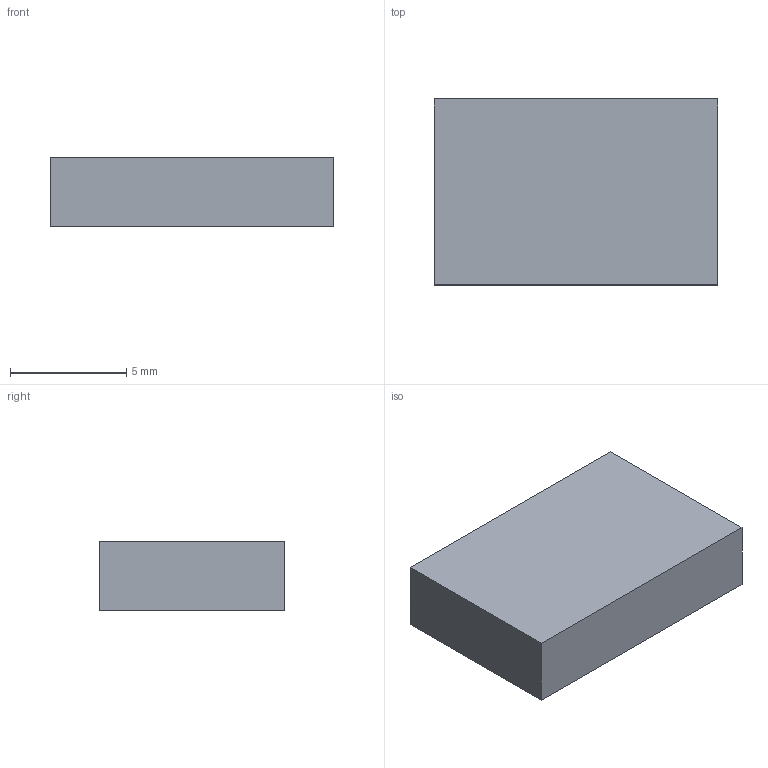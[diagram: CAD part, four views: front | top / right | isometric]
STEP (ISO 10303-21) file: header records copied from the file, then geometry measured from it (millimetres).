
FILE_DESCRIPTION(('Open CASCADE Model'),'2;1');
FILE_NAME('Open CASCADE Shape Model','2026-11-20T22:44:44',('Author'),( 'Open CASCADE'),'Open CASCADE STEP processor 7.8','Open CASCADE 7.8' ,'Unknown');
FILE_SCHEMA(('AUTOMOTIVE_DESIGN { 1 0 10303 214 1 1 1 1 }'));
Length unit declared in the file: millimetre
Products named in the file (1): Open CASCADE STEP translator 7.8 12
Bounding box: 12.2 x 8 x 3 mm (x, y, z)
Volume: 292.8 mm3; surface area: 316.4 mm2
Topology: 1 solids, 1 shells, 6 faces, 12 edges, 8 vertices
Faces by surface type: plane 6
Entity records: 322 total; most frequent: CARTESIAN_POINT 51, DIRECTION 50, LINE 36, VECTOR 36, ORIENTED_EDGE 24, PCURVE 24, DEFINITIONAL_REPRESENTATION 24, EDGE_CURVE 12
